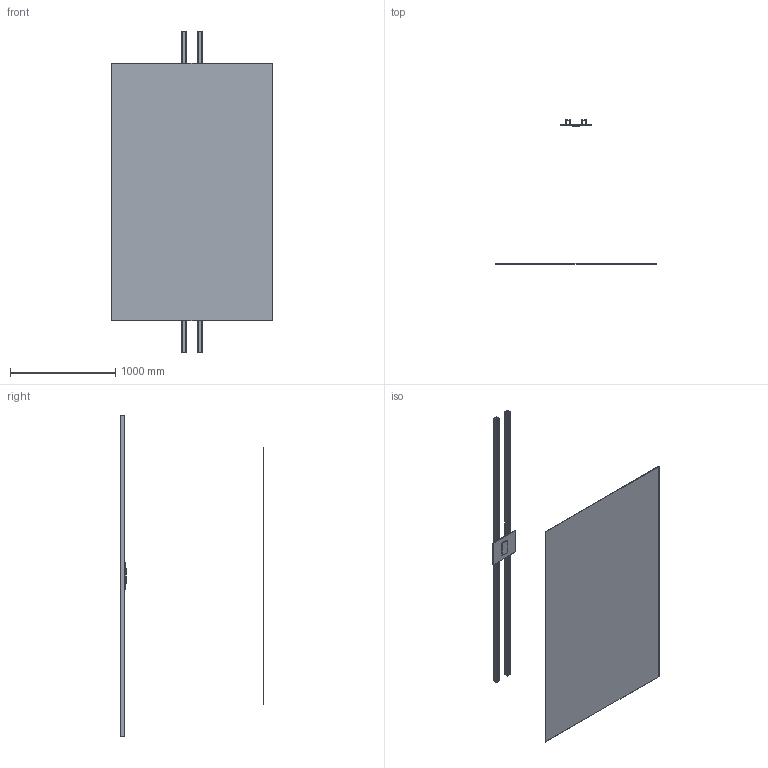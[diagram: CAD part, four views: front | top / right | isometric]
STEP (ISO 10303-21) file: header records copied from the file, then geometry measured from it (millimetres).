
FILE_DESCRIPTION(('Open CASCADE Model'),'2;1');
FILE_NAME('Open CASCADE Shape Model','2026-08-07T05:05:20',('Author'),( 'Open CASCADE'),'Open CASCADE STEP processor 7.9','Open CASCADE 7.9' ,'Unknown');
FILE_SCHEMA(('AUTOMOTIVE_DESIGN { 1 0 10303 214 1 1 1 1 }'));
Length unit declared in the file: millimetre
Products named in the file (6): Open CASCADE STEP translator 7.9 1; Open CASCADE STEP translator 7.9 1.1; Open CASCADE STEP translator 7.9 1.2; Open CASCADE STEP translator 7.9 1.3; Open CASCADE STEP translator 7.9 1.4; Open CASCADE STEP translator 7.9 1.5
Assembly tree (5 placements, depth 2):
  Open CASCADE STEP translator 7.9 1
    Open CASCADE STEP translator 7.9 1.1
    Open CASCADE STEP translator 7.9 1.2
    Open CASCADE STEP translator 7.9 1.3
    Open CASCADE STEP translator 7.9 1.4
    Open CASCADE STEP translator 7.9 1.5
Bounding box: 1524 x 1364.01 x 3048 mm (x, y, z)
Volume: 25129628.9 mm3; surface area: 9432503.5 mm2
Topology: 5 solids, 5 shells, 54 faces, 132 edges, 88 vertices
Faces by surface type: plane 54
Entity records: 3364 total; most frequent: CARTESIAN_POINT 544, DIRECTION 516, LINE 396, VECTOR 396, ORIENTED_EDGE 264, PCURVE 264, DEFINITIONAL_REPRESENTATION 264, EDGE_CURVE 132
